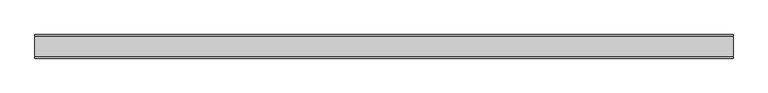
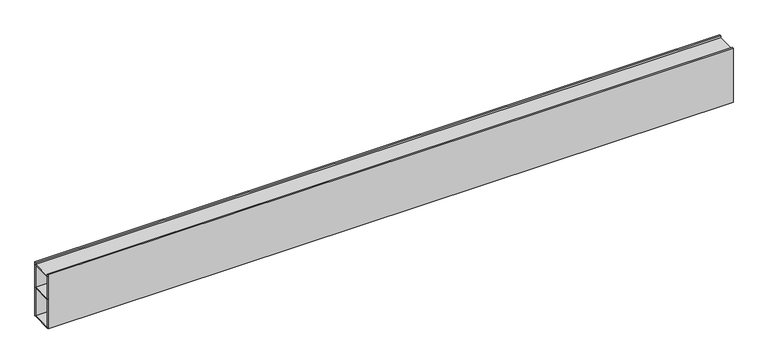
"""IFC4 building model written with IfcOpenShell, lengths in millimetres: light fixture geometry, Lighting-Ceiling-Betacalco-Block-Straight : BLKC-DT1-PW01-TR01-SL04-EP01-LP020-CR80-CTA40."""

from ifc_helpers import new_model, si_unit, frame, origin, origin_with_axes, place, context, project, spatial, polyline, outline, extrude, source, transform, mapped, element, save


def light_fixture_59b39700(model_context):
    return source(origin(), model_context, "Body", "SweptSolid", [
        extrude(outline(polyline([(609.6, 18.0975), (609.6, -18.0975), (-609.6, -18.0975), (-609.6, 18.0975), (609.6, 18.0975)])), frame((0.0, 0.0, 96.3095588), z_axis=(0.0, 0.0, 1.0), x_axis=(1.0, 0.0, 0.0)), (0.0, 0.0, 1.0), 1.5875),
        extrude(outline(polyline([(609.6, 18.0975), (609.6, -18.0975), (-609.6, -18.0975), (-609.6, 18.0975), (609.6, 18.0975)])), frame((0.0, 0.0, 53.687913), z_axis=(0.0, 0.0, 1.0), x_axis=(1.0, 0.0, 0.0)), (0.0, 0.0, 1.0), 1.5875),
        extrude(outline(polyline([(609.6, 18.0975), (609.6, -18.0975), (-609.6, -18.0975), (-609.6, 18.0975), (609.6, 18.0975)])), origin_with_axes(), (0.0, 0.0, 1.0), 1.5875),
        extrude(outline(polyline([(609.6, 20.6375), (609.6, 18.0975), (-609.6, 18.0975), (-609.6, 20.6375), (609.6, 20.6375)])), origin_with_axes(), (0.0, 0.0, 1.0), 101.6),
        extrude(outline(polyline([(609.6, -18.0975), (609.6, -20.6375), (-609.6, -20.6375), (-609.6, -18.0975), (609.6, -18.0975)])), origin_with_axes(), (0.0, 0.0, 1.0), 101.6),
    ])


if __name__ == "__main__":
    model = new_model("IFC4")
    model_context = context("Model", 3, world=origin())
    ifc_project = project(units=[si_unit("LENGTHUNIT", "METRE", prefix="MILLI")], contexts=[model_context])
    site = spatial("IfcSite", under=ifc_project)
    building = spatial("IfcBuilding", under=site)
    placement = place(None, origin())
    light_fixture_shape = light_fixture_59b39700(model_context)
    element("IfcLightFixture", 1, ObjectType="Lighting-Ceiling-Betacalco-Block-Straight : BLKC-DT1-PW01-TR01-SL04-EP01-LP020-CR80-CTA40", at=placement, inside=building, context=model_context, shape_type="MappedRepresentation", body=[
        mapped(light_fixture_shape, transform((0.0, 0.0, 0.0), x_axis=(1.0, 0.0, 0.0), y_axis=(0.0, 1.0, 0.0), z_axis=(0.0, 0.0, 1.0))),
    ])
    save(model, "model.ifc")
